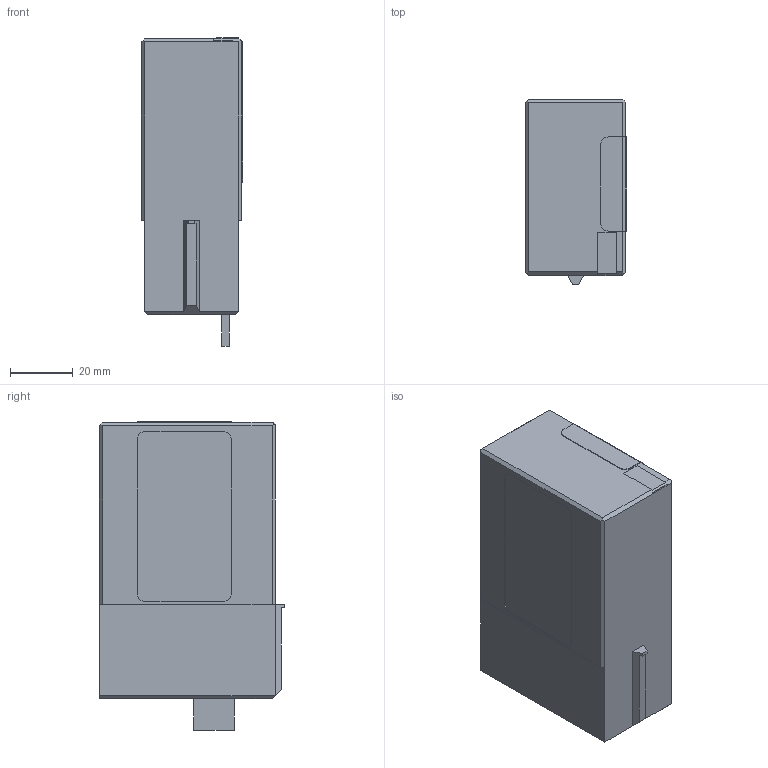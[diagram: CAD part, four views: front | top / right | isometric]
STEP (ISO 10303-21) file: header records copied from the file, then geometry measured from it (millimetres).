
FILE_DESCRIPTION(('CAx-IF Rec.Pracs.---Model Styling and Organization---1.5---2016-08-15','CAx-IF Rec.Pracs.---Geometric and Assembly Validation Properties---4.4---2016-08-17','CAx-IF Rec.Pracs.---User Defined Attributes---1.5---2016-08-15','CAx-IF Rec.Pracs.---External References---2.1---2005-01-19'),'2;1');
FILE_NAME('SBC_STP_PLC_PCD3R560_2021-01-04.stp','2021-01-05T10:34:10',('Unspecified'),('Unspecified'),'CAD Exchanger 3.9.0 (cadexchanger.com)','Unspecified','');
FILE_SCHEMA(('AUTOMOTIVE_DESIGN { 1 0 10303 214 1 1 1 1 }'));
Length unit declared in the file: millimetre
Products named in the file (7): Büchse001; Etikette_unten; Label; Etikette_oben; Etikette_in_der_Schr䧥; Leiterplatte; Bus
Bounding box: 32.2 x 59 x 98.2 mm (x, y, z)
Volume: 49904.6 mm3; surface area: 47808.4 mm2
Topology: 7 solids, 7 shells, 103 faces, 247 edges, 162 vertices
Faces by surface type: plane 93, cylinder 10
Entity records: 3046 total; most frequent: CARTESIAN_POINT 513, ORIENTED_EDGE 494, DIRECTION 475, EDGE_CURVE 247, LINE 227, VECTOR 227, VERTEX_POINT 162, AXIS2_PLACEMENT_3D 124
